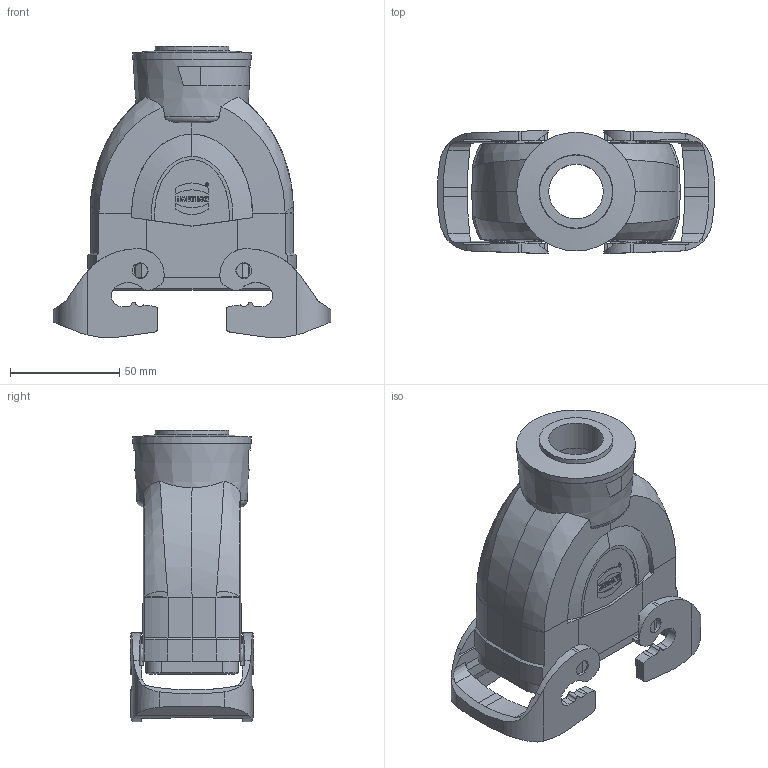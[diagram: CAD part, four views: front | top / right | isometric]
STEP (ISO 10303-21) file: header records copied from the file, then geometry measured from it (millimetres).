
FILE_DESCRIPTION(/* description */ (''),/* implementation_level */ '2;1');
FILE_NAME(/* name */ '100779362ugm000_c.stp',/* time_stamp */ '2022-03-12T08:03:10+01:00',/* author */ (''),/* organization */ (''),/* preprocessor_version */ 'ST-DEVELOPER v16.7',/* originating_system */ 'SIEMENS PLM Software NX 1911',/* authorisation */ '');
FILE_SCHEMA (('AUTOMOTIVE_DESIGN { 1 0 10303 214 3 1 1 1 }'));
Length unit declared in the file: millimetre
Products named in the file (1): 100779362ugm000_c
Bounding box: 127.17 x 56.57 x 133.59 mm (x, y, z)
Volume: 149686.9 mm3; surface area: 73331.7 mm2
Topology: 3 solids, 3 shells, 637 faces, 1774 edges, 1169 vertices
Faces by surface type: plane 390, cylinder 152, bspline 46, cone 31, extrusion 12, torus 6
Full cylindrical faces by diameter (mm): 1.006 x1, 1.477 x1, 3 x4, 3.5 x4, 7.2 x4, 25 x1, 38 x1, 54.4 x1
Entity records: 27428 total; most frequent: CARTESIAN_POINT 7093, ORIENTED_EDGE 3462, DIRECTION 3136, EDGE_CURVE 1731, VERTEX_POINT 1148, VECTOR 1066, LINE 1054, AXIS2_PLACEMENT_3D 1035
